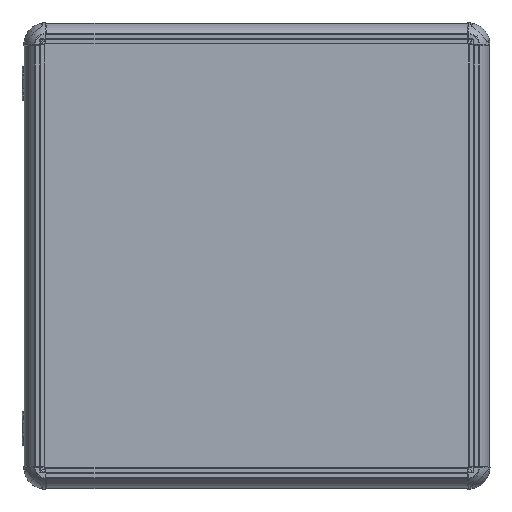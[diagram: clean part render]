
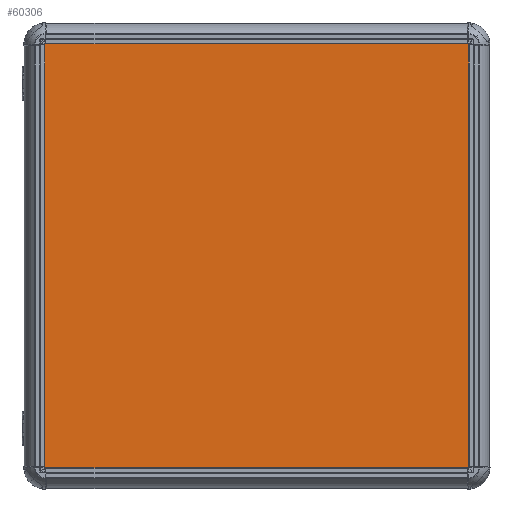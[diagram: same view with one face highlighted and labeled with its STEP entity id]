
A CAD part, top view. The second image highlights one B-rep face of the part: STEP entity #60306.
In plain terms, the highlighted planar face has unit normal (0, 0, 1).
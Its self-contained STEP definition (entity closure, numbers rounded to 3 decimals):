
#12991 = ORIENTED_EDGE ( 'NONE', *, *, #88599, .T. ) ;
#15461 = EDGE_CURVE ( 'NONE', #96530, #104022, #43532, .T. ) ;
#20096 = DIRECTION ( 'NONE',  ( 0., -1., 0. ) ) ;
#26759 = EDGE_LOOP ( 'NONE', ( #85918, #12991, #57945, #106084 ) ) ;
#29008 = EDGE_CURVE ( 'NONE', #104022, #150806, #111330, .T. ) ;
#32163 = DIRECTION ( 'NONE',  ( 0., 1., 0. ) ) ;
#32927 = CARTESIAN_POINT ( 'NONE',  ( 250., 250., 2. ) ) ;
#33016 = PLANE ( 'NONE',  #59392 ) ;
#34533 = CARTESIAN_POINT ( 'NONE',  ( 250., -250., 2. ) ) ;
#42413 = FACE_OUTER_BOUND ( 'NONE', #26759, .T. ) ;
#43151 = DIRECTION ( 'NONE',  ( -1., 0., 0. ) ) ;
#43532 = LINE ( 'NONE', #125618, #56815 ) ;
#48201 = VECTOR ( 'NONE', #43151, 1000. ) ;
#55592 = DIRECTION ( 'NONE',  ( 0., 0., 1. ) ) ;
#56815 = VECTOR ( 'NONE', #20096, 1000. ) ;
#57945 = ORIENTED_EDGE ( 'NONE', *, *, #15461, .T. ) ;
#59392 = AXIS2_PLACEMENT_3D ( 'NONE', #66468, #55592, #127496 ) ;
#60306 = ADVANCED_FACE ( 'NONE', ( #42413 ), #33016, .T. ) ;
#64159 = LINE ( 'NONE', #88216, #48201 ) ;
#64890 = DIRECTION ( 'NONE',  ( 1., 0., 0. ) ) ;
#66468 = CARTESIAN_POINT ( 'NONE',  ( 0., 0., 2. ) ) ;
#73732 = CARTESIAN_POINT ( 'NONE',  ( -250., 250., 2. ) ) ;
#75896 = VERTEX_POINT ( 'NONE', #144124 ) ;
#85918 = ORIENTED_EDGE ( 'NONE', *, *, #95077, .T. ) ;
#88216 = CARTESIAN_POINT ( 'NONE',  ( -250., 250., 2. ) ) ;
#88599 = EDGE_CURVE ( 'NONE', #75896, #96530, #64159, .T. ) ;
#90975 = VECTOR ( 'NONE', #32163, 1000. ) ;
#95077 = EDGE_CURVE ( 'NONE', #150806, #75896, #101960, .T. ) ;
#96530 = VERTEX_POINT ( 'NONE', #73732 ) ;
#101242 = CARTESIAN_POINT ( 'NONE',  ( -250., -250., 2. ) ) ;
#101635 = CARTESIAN_POINT ( 'NONE',  ( -250., -250., 2. ) ) ;
#101960 = LINE ( 'NONE', #32927, #90975 ) ;
#104022 = VERTEX_POINT ( 'NONE', #101635 ) ;
#106084 = ORIENTED_EDGE ( 'NONE', *, *, #29008, .T. ) ;
#111330 = LINE ( 'NONE', #101242, #124187 ) ;
#124187 = VECTOR ( 'NONE', #64890, 1000. ) ;
#125618 = CARTESIAN_POINT ( 'NONE',  ( -250., 250., 2. ) ) ;
#127496 = DIRECTION ( 'NONE',  ( 1., 0., 0. ) ) ;
#144124 = CARTESIAN_POINT ( 'NONE',  ( 250., 250., 2. ) ) ;
#150806 = VERTEX_POINT ( 'NONE', #34533 ) ;
